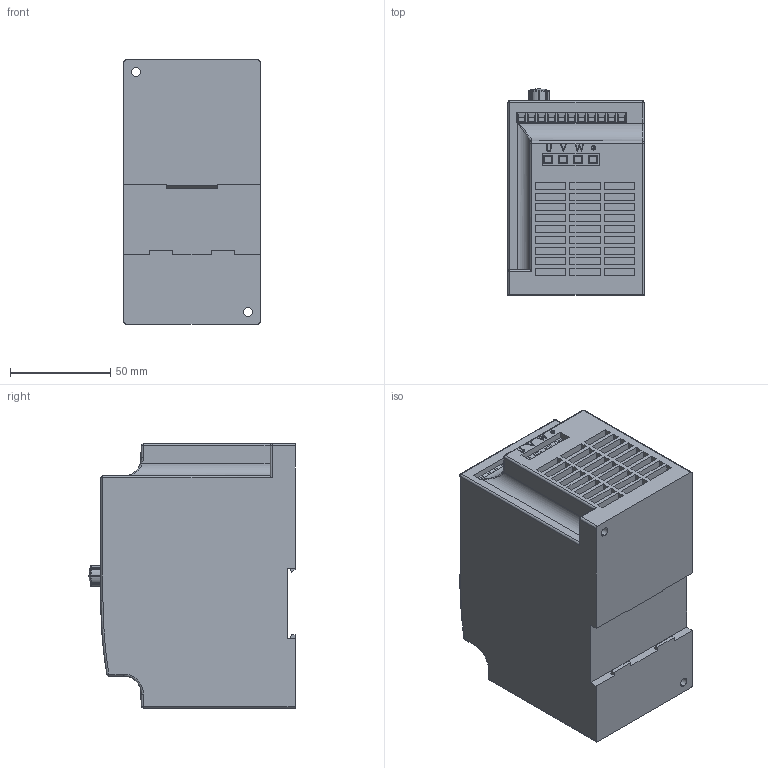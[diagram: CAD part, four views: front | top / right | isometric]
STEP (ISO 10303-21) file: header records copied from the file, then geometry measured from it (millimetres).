
FILE_DESCRIPTION (( 'STEP AP203' ), '1' );
FILE_NAME ('IF10-201-1.STEP', '2019-01-25T16:59:09', ( '' ), ( '' ), 'SwSTEP 2.0', 'SolidWorks 2012', '' );
FILE_SCHEMA (( 'CONFIG_CONTROL_DESIGN' ));
Products named in the file (1): IF10-201-1
Bounding box: 68 x 103 x 132.6 mm (x, y, z)
Volume: 777014.1 mm3; surface area: 68994 mm2
Topology: 1 solids, 1 shells, 1644 faces, 4168 edges, 2709 vertices
Faces by surface type: plane 1247, bspline 206, cylinder 139, torus 23, cone 18, sphere 11
Entity records: 63861 total; most frequent: CARTESIAN_POINT 25345, ORIENTED_EDGE 8314, DIRECTION 6994, EDGE_CURVE 4157, LINE 3306, VECTOR 3306, VERTEX_POINT 2709, AXIS2_PLACEMENT_3D 1844
